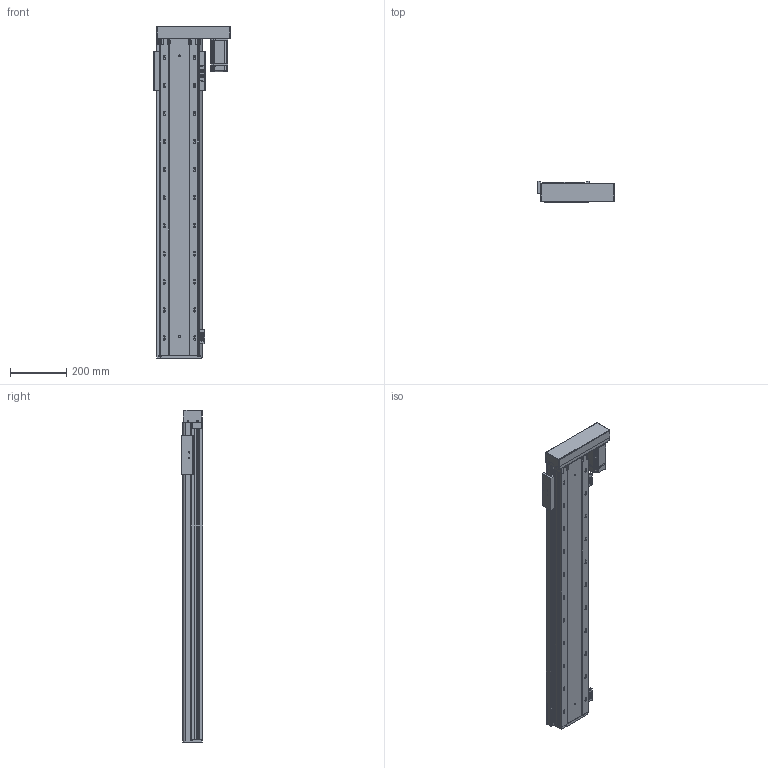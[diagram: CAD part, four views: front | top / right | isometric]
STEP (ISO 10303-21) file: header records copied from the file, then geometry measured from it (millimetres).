
FILE_DESCRIPTION (( 'STEP AP203' ), '1' );
FILE_NAME ('RY140FB-L2010-300-RK.SLDASM_900.step', '2021-02-23T02:41:17', ( '盈信电脑' ), ( '东莞市道滘镇水果街19号' ), 'SwSTEP 2.0', 'SolidWorks 2012', '' );
FILE_SCHEMA (( 'CONFIG_CONTROL_DESIGN' ));
Length unit declared in the file: millimetre
Products named in the file (17): RY140FB-L2010-300-RK.SLDASM_900; RY140FB-酘衵殏萇儂欶; RY140-674嫖萇耀輸; RY140FB-覜茼え; RY140FB-左右折电机安装板; RY140直线电机感应器674光电安装座; RY140FB-20佪裝臏賑輸; 覜茼ん674; RY140FB-300蛌殏奻裔啣-RK_900; 侂狟400W侜督萇儂; RY140FB-转折电机端支撑座(7002); 15; 滅袉蝶18-10; RY140FB-300蛌殏倰第菁釱-RK_900; RY140FB-綴裔啣; 滅袉蝶18-24
Assembly tree (20 placements, depth 3):
  RY140FB-L2010-300-RK.SLDASM_900
    RY140FB-300蛌殏倰第菁釱-RK_900
    RY140FB-綴裔啣
    滅袉蝶18-24  x2
    滅袉蝶18-10
    RY140FB-转折电机端支撑座(7002)
    侂狟400W侜督萇儂
      15
    RY140FB-20佪裝臏賑輸
    RY140FB-300蛌殏奻裔啣-RK_900
    RY140-674嫖萇耀輸
      覜茼ん674
      RY140直线电机感应器674光电安装座
    RY140-674嫖萇耀輸
      覜茼ん674  x2
      RY140直线电机感应器674光电安装座
    RY140FB-覜茼え
    RY140FB-左右折电机安装板
    RY140FB-酘衵殏萇儂欶
Bounding box: 271.3 x 75 x 1183.2 mm (x, y, z)
Volume: 4568298.9 mm3; surface area: 1530088.6 mm2
Topology: 17 solids, 17 shells, 1882 faces, 5191 edges, 3295 vertices
Faces by surface type: cylinder 945, plane 723, cone 186, bspline 28
Entity records: 57289 total; most frequent: CARTESIAN_POINT 11723, DIRECTION 9248, ORIENTED_EDGE 9058, EDGE_CURVE 4529, AXIS2_PLACEMENT_3D 3360, VERTEX_POINT 2963, VECTOR 2528, LINE 2528
